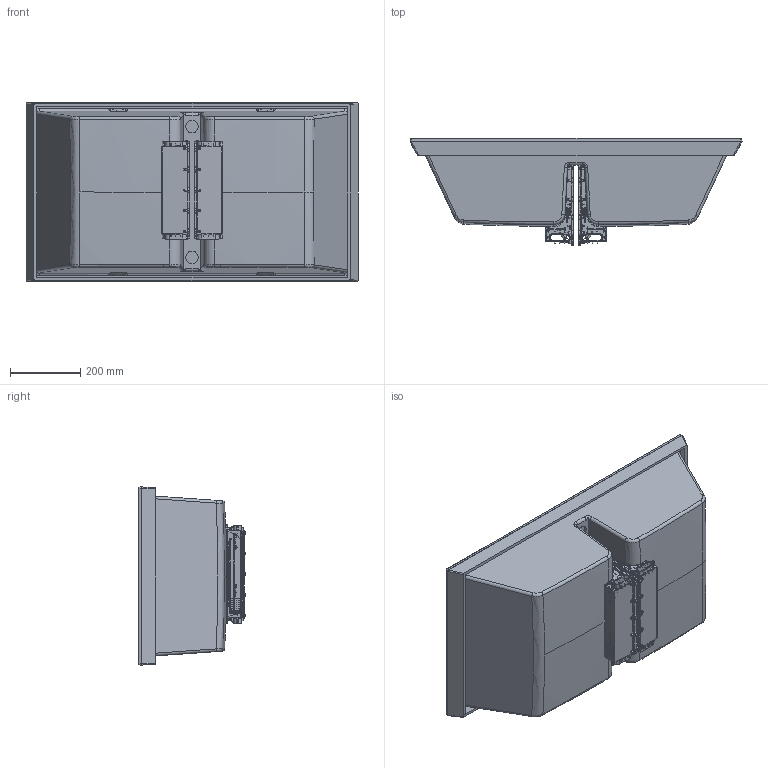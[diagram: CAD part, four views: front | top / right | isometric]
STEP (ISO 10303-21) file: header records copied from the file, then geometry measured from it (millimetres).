
FILE_DESCRIPTION (( 'STEP AP203' ), '1' );
FILE_NAME ('3d_Dogma_100_slim.STEP', '2022-05-06T15:19:34', ( '' ), ( '' ), 'SwSTEP 2.0', 'SolidWorks 2021', '' );
FILE_SCHEMA (( 'CONFIG_CONTROL_DESIGN' ));
Length unit declared in the file: millimetre
Products named in the file (15): bicchierino; 20180220 06266_neutro; GrigliettaSup5; Corpo_SMART; FLANGIA_slim; 20180220 06265; 3d_Dogma_100_slim; pomello; assieme griglia2; guarnizione; CestelloInf3; TP_Patent Elleci_borchie; perno pallina; vitone 60mm; DOGMA_smart
Assembly tree (17 placements, depth 3):
  3d_Dogma_100_slim
    DOGMA_smart
    FLANGIA_slim
    assieme griglia2  x2
      bicchierino
      guarnizione
      perno pallina
      pomello
      GrigliettaSup5
      vitone 60mm
      CestelloInf3
    Corpo_SMART  x2
    TP_Patent Elleci_borchie  x2
      20180220 06265
      20180220 06266_neutro
Bounding box: 942.88 x 303.91 x 506.12 mm (x, y, z)
Volume: 9943320.3 mm3; surface area: 3002975.6 mm2
Topology: 22 solids, 22 shells, 7685 faces, 20104 edges, 12648 vertices
Faces by surface type: plane 3065, bspline 2270, cylinder 1864, cone 254, torus 178, sphere 54
Entity records: 196631 total; most frequent: CARTESIAN_POINT 106715, ORIENTED_EDGE 21328, DIRECTION 13321, EDGE_CURVE 10664, VERTEX_POINT 6756, VECTOR 4601, LINE 4601, EDGE_LOOP 4462
